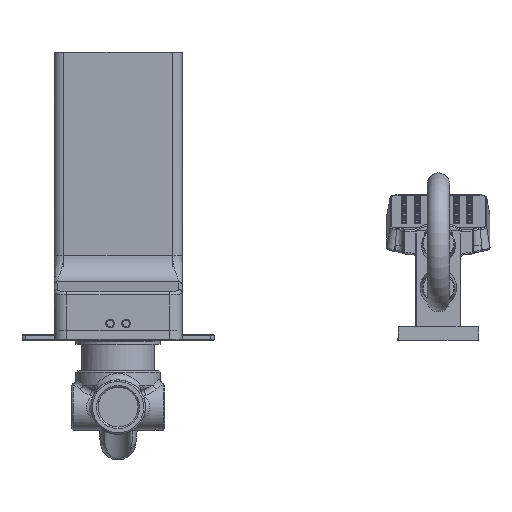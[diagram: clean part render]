
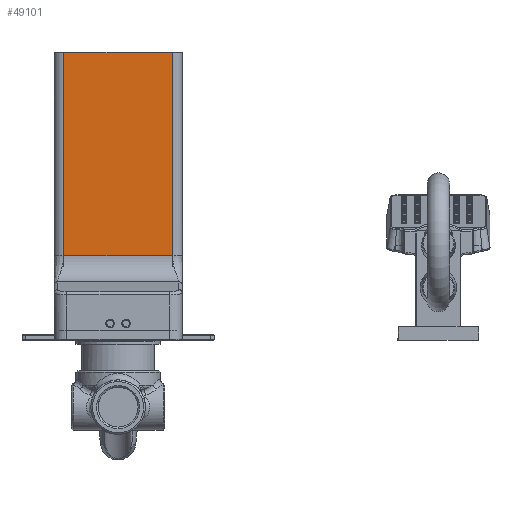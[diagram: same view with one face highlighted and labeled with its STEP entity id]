
A CAD part, front view. The second image highlights one B-rep face of the part: STEP entity #49101.
In plain terms, the highlighted planar face has unit normal (0, -0.999, -0.035).
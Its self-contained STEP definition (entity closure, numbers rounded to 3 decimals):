
#5470=FACE_OUTER_BOUND('',#8806,.T.);
#8806=EDGE_LOOP('',(#39308,#39309,#39310,#39311));
#13886=LINE('',#80027,#18794);
#13891=LINE('',#80059,#18799);
#13892=LINE('',#80138,#18800);
#13893=LINE('',#80140,#18801);
#18794=VECTOR('',#61319,68.);
#18799=VECTOR('',#61348,68.);
#18800=VECTOR('',#61353,10.);
#18801=VECTOR('',#61356,126.903);
#22720=VERTEX_POINT('',#79930);
#22730=VERTEX_POINT('',#80024);
#22731=VERTEX_POINT('',#80026);
#22732=VERTEX_POINT('',#80044);
#28490=EDGE_CURVE('',#22730,#22731,#13886,.T.);
#28499=EDGE_CURVE('',#22720,#22732,#13891,.T.);
#28502=EDGE_CURVE('',#22731,#22732,#13892,.T.);
#28503=EDGE_CURVE('',#22720,#22730,#13893,.T.);
#39308=ORIENTED_EDGE('',*,*,#28499,.T.);
#39309=ORIENTED_EDGE('',*,*,#28502,.F.);
#39310=ORIENTED_EDGE('',*,*,#28490,.F.);
#39311=ORIENTED_EDGE('',*,*,#28503,.F.);
#47392=PLANE('',#52124);
#49101=ADVANCED_FACE('',(#5470),#47392,.F.);
#52124=AXIS2_PLACEMENT_3D('',#80139,#61354,#61355);
#61319=DIRECTION('',(1.,0.,0.));
#61348=DIRECTION('',(1.,0.,0.));
#61353=DIRECTION('',(0.,0.035,-0.999));
#61354=DIRECTION('center_axis',(0.,0.999,
0.035));
#61355=DIRECTION('ref_axis',(-1.,0.,0.));
#61356=DIRECTION('',(0.,-0.035,0.999));
#79930=CARTESIAN_POINT('',(-12.1,17.5,44.657));
#80024=CARTESIAN_POINT('',(-12.1,13.071,171.483));
#80026=CARTESIAN_POINT('',(55.9,13.071,171.483));
#80027=CARTESIAN_POINT('',(-12.1,13.071,171.483));
#80044=CARTESIAN_POINT('',(55.9,17.5,44.657));
#80059=CARTESIAN_POINT('',(-12.1,17.5,44.657));
#80138=CARTESIAN_POINT('',(55.9,13.071,171.483));
#80139=CARTESIAN_POINT('Origin',(55.9,15.286,108.07));
#80140=CARTESIAN_POINT('',(-12.1,17.5,44.657));
